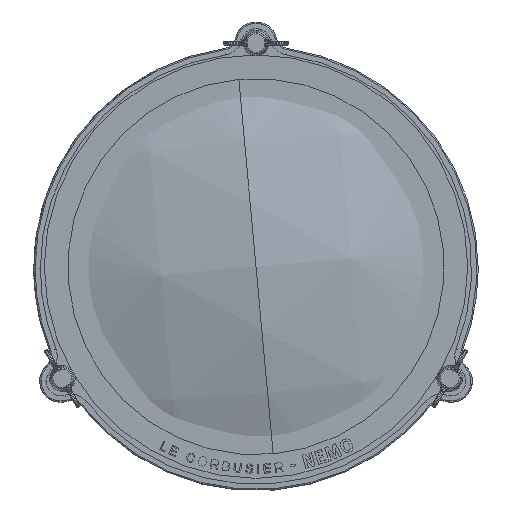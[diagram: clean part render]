
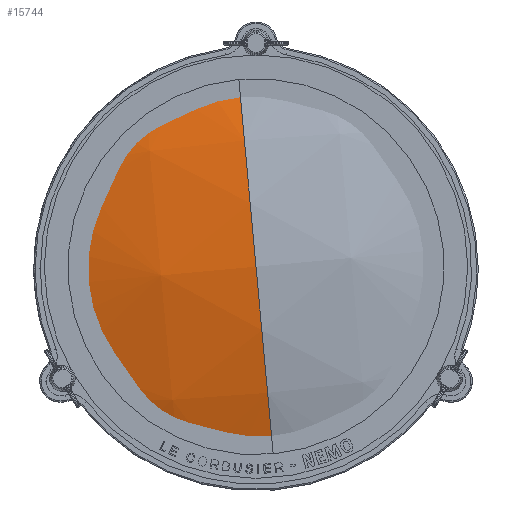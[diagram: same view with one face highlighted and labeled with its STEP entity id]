
A CAD part, front view. The second image highlights one B-rep face of the part: STEP entity #15744.
In plain terms, the highlighted spherical face has radius 216.138 mm.
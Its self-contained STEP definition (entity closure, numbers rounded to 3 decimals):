
#1358 = DIRECTION ( 'NONE',  ( -0.996, 0., -0.091 ) ) ;
#3629 = VERTEX_POINT ( 'NONE', #20794 ) ;
#3892 = AXIS2_PLACEMENT_3D ( 'NONE', #6634, #22502, #8908 ) ;
#3990 = AXIS2_PLACEMENT_3D ( 'NONE', #19521, #5932, #21823 ) ;
#4112 = VERTEX_POINT ( 'NONE', #13535 ) ;
#4178 = CARTESIAN_POINT ( 'NONE',  ( 0., 203.443, 0. ) ) ;
#4586 = CIRCLE ( 'NONE', #21159, 71.5 ) ;
#5932 = DIRECTION ( 'NONE',  ( -0.996, 0., -0.091 ) ) ;
#6453 = DIRECTION ( 'NONE',  ( 0.091, 0., -0.996 ) ) ;
#6634 = CARTESIAN_POINT ( 'NONE',  ( 0., 203.443, 0. ) ) ;
#6948 = EDGE_LOOP ( 'NONE', ( #7236, #19407, #27917, #11196 ) ) ;
#7236 = ORIENTED_EDGE ( 'NONE', *, *, #19576, .F. ) ;
#7638 = VERTEX_POINT ( 'NONE', #16584 ) ;
#8908 = DIRECTION ( 'NONE',  ( 0.091, 0., -0.996 ) ) ;
#10078 = EDGE_CURVE ( 'NONE', #26854, #4112, #17362, .T. ) ;
#10842 = CIRCLE ( 'NONE', #13596, 71.5 ) ;
#10889 = DIRECTION ( 'NONE',  ( 0.996, 0., 0.091 ) ) ;
#11196 = ORIENTED_EDGE ( 'NONE', *, *, #10078, .T. ) ;
#11215 = DIRECTION ( 'NONE',  ( 0., -1., 0. ) ) ;
#13535 = CARTESIAN_POINT ( 'NONE',  ( 0., -12.695, 0. ) ) ;
#13596 = AXIS2_PLACEMENT_3D ( 'NONE', #28596, #14927, #1358 ) ;
#14739 = CIRCLE ( 'NONE', #3892, 216.138 ) ;
#14860 = SPHERICAL_SURFACE ( 'NONE', #28758, 216.138 ) ;
#14927 = DIRECTION ( 'NONE',  ( 0., -1., 0. ) ) ;
#15744 = ADVANCED_FACE ( 'NONE', ( #20967 ), #14860, .T. ) ;
#16584 = CARTESIAN_POINT ( 'NONE',  ( -71.201, -0.526, -6.528 ) ) ;
#17362 = CIRCLE ( 'NONE', #3990, 216.138 ) ;
#19407 = ORIENTED_EDGE ( 'NONE', *, *, #23603, .T. ) ;
#19521 = CARTESIAN_POINT ( 'NONE',  ( 0., 203.443, 0. ) ) ;
#19576 = EDGE_CURVE ( 'NONE', #3629, #4112, #14739, .T. ) ;
#20794 = CARTESIAN_POINT ( 'NONE',  ( -6.528, -0.526, 71.201 ) ) ;
#20967 = FACE_OUTER_BOUND ( 'NONE', #6948, .T. ) ;
#21159 = AXIS2_PLACEMENT_3D ( 'NONE', #24856, #11215, #27139 ) ;
#21823 = DIRECTION ( 'NONE',  ( -0.091, 0., 0.996 ) ) ;
#22502 = DIRECTION ( 'NONE',  ( 0.996, 0., 0.091 ) ) ;
#23603 = EDGE_CURVE ( 'NONE', #3629, #7638, #4586, .T. ) ;
#24852 = CARTESIAN_POINT ( 'NONE',  ( 6.528, -0.526, -71.201 ) ) ;
#24856 = CARTESIAN_POINT ( 'NONE',  ( 0., -0.526, 0. ) ) ;
#26854 = VERTEX_POINT ( 'NONE', #24852 ) ;
#27099 = EDGE_CURVE ( 'NONE', #7638, #26854, #10842, .T. ) ;
#27139 = DIRECTION ( 'NONE',  ( -0.996, 0., -0.091 ) ) ;
#27917 = ORIENTED_EDGE ( 'NONE', *, *, #27099, .T. ) ;
#28596 = CARTESIAN_POINT ( 'NONE',  ( 0., -0.526, 0. ) ) ;
#28758 = AXIS2_PLACEMENT_3D ( 'NONE', #4178, #10889, #6453 ) ;
